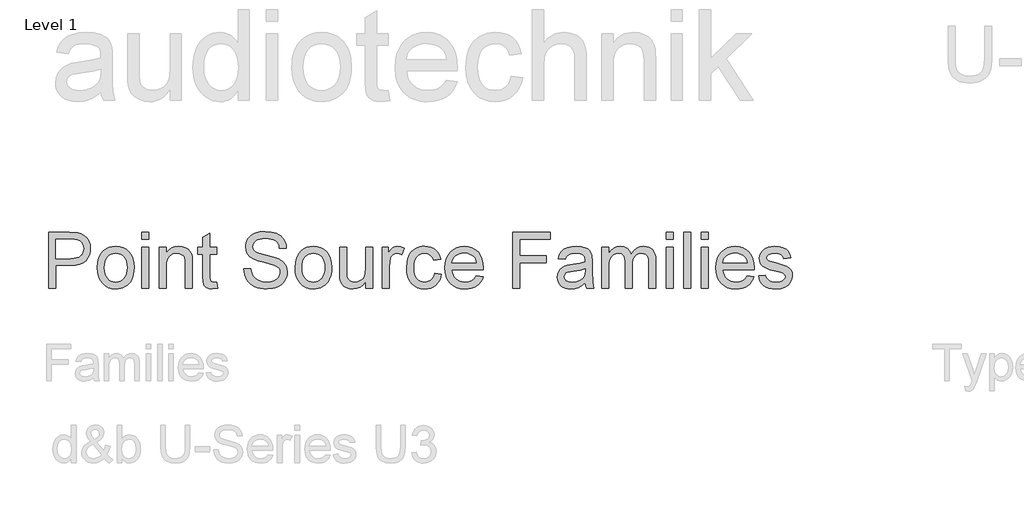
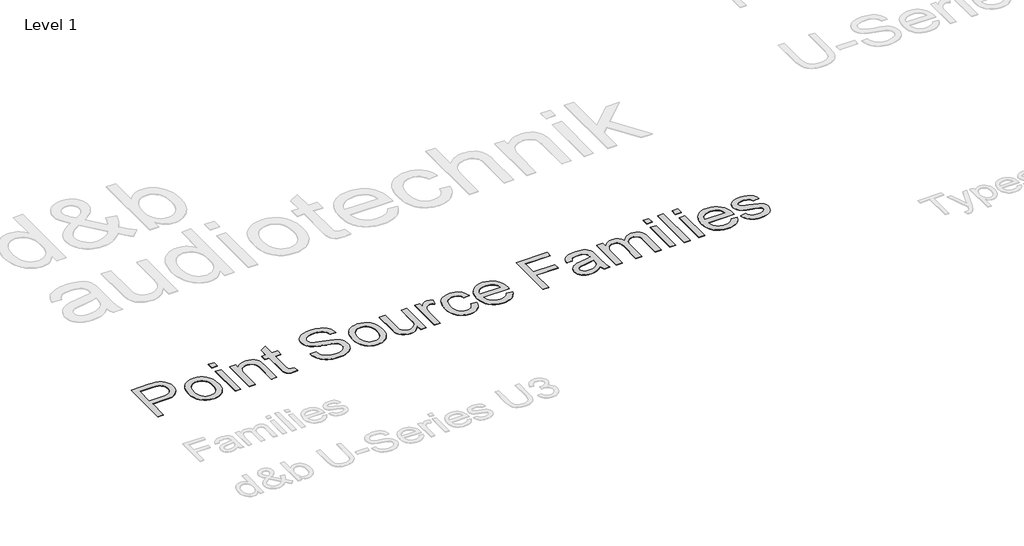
# One storey, part 26 of 29: 1 proxy.
"""IFC4 building model written with IfcOpenShell, lengths in millimetres."""

from ifc_helpers import new_model, si_unit, origin, origin_with_axes, place, context, project, spatial, polyline, outline, extrude, element, save

model = new_model("IFC4")

# Units and contexts
model_context = context("Model", 3, world=origin())
ifc_project = project(units=[si_unit("LENGTHUNIT", "METRE", prefix="MILLI")], contexts=[model_context])

# Site, building, storey
site = spatial("IfcSite", under=ifc_project)
building = spatial("IfcBuilding", under=site)
storey = spatial("IfcBuildingStorey", under=building, Name="Level 1", Elevation=0.0)

# Proxy
placement = place(None, origin())
element("IfcBuildingElementProxy", 1, Name="600mm Arial", ObjectType="600mm Arial", at=placement, inside=storey, context=model_context, shape_type="SweptSolid", body=[
    extrude(outline(polyline([(-21033.6449223, 18351.3054836), (-21033.6449223, 18954.0433445), (-20810.2669749, 18954.0433445), (-20758.2484608, 18952.6086047), (-20720.2094625, 18948.3043853), (-20680.0551427, 18937.5806252), (-20647.0009454, 18920.1246245), (-20620.3846831, 18895.145437), (-20599.544168, 18861.8521165), (-20586.079687, 18822.5807135), (-20581.5915267, 18779.6672788), (-20584.6219546, 18742.6675471), (-20593.7132384, 18708.6292655), (-20608.8653781, 18677.5524339), (-20630.0783736, 18649.4370525), (-20659.2008321, 18626.1317281), (-20698.0813604, 18609.4850678), (-20746.7199587, 18599.4970716), (-20805.1166269, 18596.1677396), (-20958.3026897, 18596.1677396), (-20958.3026897, 18351.3054836), (-21033.6449223, 18351.3054836)]), holes=[polyline([(-20958.3026897, 18671.5099722), (-20800.702043, 18671.5099722), (-20764.4656665, 18673.2390176), (-20733.8946727, 18678.4261537), (-20708.9890616, 18687.0713806), (-20689.7488333, 18699.1746982), (-20675.3922384, 18714.4142099), (-20665.1375278, 18732.4680188), (-20658.9847014, 18753.336125), (-20656.9337593, 18777.0185284), (-20661.7714075, 18810.8636719), (-20676.2843522, 18839.4113148), (-20698.6699716, 18860.8956233), (-20727.125644, 18873.5507639), (-20756.1883216, 18877.4135249), (-20802.4678766, 18878.7011119), (-20958.3026897, 18878.7011119), (-20958.3026897, 18671.5099722)])]), origin_with_axes(), (0.0, 0.0, 1.0), 5.0),
    extrude(outline(polyline([(-20506.2492941, 18572.6232919), (-20502.175001, 18629.9485038), (-20489.9521217, 18679.3458587), (-20469.5806562, 18720.8153566), (-20441.0606045, 18754.3569975), (-20412.3474148, 18775.7953208), (-20380.6543809, 18791.1084088), (-20345.9815029, 18800.2962616), (-20308.3287807, 18803.3588792), (-20266.7627137, 18799.6294755), (-20229.1789694, 18788.4412643), (-20195.5775477, 18769.7942457), (-20165.9584485, 18743.6884196), (-20141.7840029, 18711.0067029), (-20124.5165418, 18672.6320123), (-20114.1560651, 18628.5643478), (-20110.7025728, 18578.8037094), (-20112.2292831, 18538.4746457), (-20116.809414, 18502.6889246), (-20124.4429654, 18471.4465461), (-20135.1299373, 18444.7475103), (-20148.7369726, 18421.6859078), (-20165.130714, 18401.355829), (-20184.3111616, 18383.7572741), (-20206.2783152, 18368.8902429), (-20230.1768493, 18357.0766324), (-20255.1514383, 18348.6383391), (-20281.202082, 18343.5753631), (-20308.3287807, 18341.8877045), (-20350.5018529, 18345.6033126), (-20388.4350851, 18356.7501371), (-20422.1284773, 18375.3281779), (-20451.5820296, 18401.3374349), (-20475.4989578, 18434.3364499), (-20492.5824779, 18473.8837644), (-20502.83259, 18519.9793784), (-20506.2492941, 18572.6232919)]), holes=[polyline([(-20430.9070614, 18572.7704447), (-20428.7273606, 18536.225967), (-20422.1882582, 18504.5835169), (-20411.2897541, 18477.8430943), (-20396.0318483, 18456.0046994), (-20377.4722016, 18439.0407409), (-20356.6684748, 18426.9236277), (-20333.6206678, 18419.6533598), (-20308.3287807, 18417.2299371), (-20283.1656522, 18419.6671553), (-20260.2098157, 18426.97881), (-20239.4612712, 18439.1649011), (-20220.9200186, 18456.2254286), (-20205.6621129, 18478.2799542), (-20194.7636087, 18505.4480396), (-20188.2245063, 18537.7296846), (-20186.0448055, 18575.1248894), (-20188.2383019, 18610.5105388), (-20194.818791, 18641.3252545), (-20205.786273, 18667.5690363), (-20221.1407478, 18689.2418843), (-20239.7509782, 18706.2058428), (-20260.4857272, 18718.3229561), (-20283.3449947, 18725.593224), (-20308.3287807, 18728.0166466), (-20333.6206678, 18725.602421), (-20356.6684748, 18718.3597443), (-20377.4722016, 18706.2886163), (-20396.0318483, 18689.3890371), (-20411.2897541, 18667.6150216), (-20422.1882582, 18640.9205843), (-20428.7273606, 18609.3057253), (-20430.9070614, 18572.7704447)])]), origin_with_axes(), (0.0, 0.0, 1.0), 5.0),
    extrude(outline(polyline([(-20025.9425612, 18351.3054836), (-20025.9425612, 18793.9411002), (-19950.6003285, 18793.9411002), (-19950.6003285, 18351.3054836), (-20025.9425612, 18351.3054836)])), origin_with_axes(), (0.0, 0.0, 1.0), 5.0),
    extrude(outline(polyline([(-20025.9425612, 18878.7011119), (-20025.9425612, 18954.0433445), (-19950.6003285, 18954.0433445), (-19950.6003285, 18878.7011119), (-20025.9425612, 18878.7011119)])), origin_with_axes(), (0.0, 0.0, 1.0), 5.0),
    extrude(outline(polyline([(-19837.5869796, 18351.3054836), (-19837.5869796, 18793.9411002), (-19762.244747, 18793.9411002), (-19762.244747, 18732.136925), (-19736.0699431, 18763.29653), (-19704.6344266, 18785.5533907), (-19667.9381976, 18798.9075071), (-19625.981256, 18803.3588792), (-19588.8435686, 18799.7720298), (-19554.8328781, 18789.0114814), (-19526.4691763, 18772.4200035), (-19506.2724548, 18751.3403651), (-19492.5688505, 18725.8277488), (-19483.6845003, 18695.9373367), (-19479.7113747, 18623.0967016), (-19479.7113747, 18351.3054836), (-19555.0536073, 18351.3054836), (-19555.0536073, 18612.9431585), (-19557.2241111, 18651.9018618), (-19563.7356224, 18679.6033761), (-19575.7469696, 18699.4506097), (-19594.4169808, 18714.8464712), (-19618.3477046, 18724.7241028), (-19646.1411893, 18728.0166466), (-19669.0188509, 18726.1680396), (-19690.2686347, 18720.6222185), (-19709.8905406, 18711.3791834), (-19727.8845687, 18698.4389342), (-19742.9171467, 18680.329943), (-19753.6547024, 18655.5806818), (-19760.0972359, 18624.1911505), (-19762.244747, 18586.1613493), (-19762.244747, 18351.3054836), (-19837.5869796, 18351.3054836)])), origin_with_axes(), (0.0, 0.0, 1.0), 5.0),
    extrude(outline(polyline([(-19216.0135606, 18414.1397283), (-19206.5957815, 18349.0981916), (-19262.9553032, 18341.8877045), (-19299.1181033, 18345.0147015), (-19326.0838535, 18354.3956923), (-19345.1401409, 18368.8534547), (-19357.5745523, 18387.2107663), (-19364.4171574, 18418.7382533), (-19366.6980258, 18472.706542), (-19366.6980258, 18718.5988676), (-19423.2047003, 18718.5988676), (-19423.2047003, 18793.9411002), (-19366.6980258, 18793.9411002), (-19366.6980258, 18901.5097956), (-19291.3557932, 18945.8027878), (-19291.3557932, 18793.9411002), (-19216.0135606, 18793.9411002), (-19216.0135606, 18718.5988676), (-19291.3557932, 18718.5988676), (-19291.3557932, 18474.913834), (-19287.3826676, 18436.0654953), (-19274.5067978, 18422.3067086), (-19263.6358849, 18418.49913), (-19248.8286345, 18417.2299371), (-19216.0135606, 18414.1397283)])), origin_with_axes(), (0.0, 0.0, 1.0), 5.0),
    extrude(outline(polyline([(-18924.0624092, 18558.4966233), (-18848.7201766, 18558.4966233), (-18840.0749497, 18516.6868345), (-18824.4399649, 18483.0808142), (-18800.0493886, 18456.4093696), (-18765.1373873, 18435.4033077), (-18722.4630758, 18421.7732797), (-18674.7855693, 18417.2299371), (-18632.8102336, 18420.6696338), (-18596.0588223, 18430.9887237), (-18566.2787748, 18447.3226843), (-18545.2175306, 18468.8069928), (-18532.6911486, 18493.4734806), (-18528.515688, 18519.353979), (-18531.6426849, 18544.5722897), (-18541.0236758, 18566.369298), (-18560.0799632, 18584.9657328), (-18592.2328496, 18600.5823235), (-18701.9352605, 18629.3506955), (-18773.9481611, 18648.3885888), (-18820.025381, 18666.506777), (-18857.5309504, 18691.8538465), (-18884.1104245, 18722.5719931), (-18899.9477444, 18757.9990292), (-18905.2268511, 18797.4727673), (-18903.5943747, 18819.9089705), (-18898.6969456, 18841.6002126), (-18890.5345639, 18862.5464937), (-18879.1072294, 18882.7478138), (-18864.5437009, 18901.3810369), (-18846.9727371, 18917.6230269), (-18826.394338, 18931.4737841), (-18802.8085036, 18942.9333082), (-18749.7967081, 18958.3291697), (-18691.1195299, 18963.4611235), (-18627.5495211, 18958.0900464), (-18571.9257634, 18941.976815), (-18547.5903694, 18929.9746649), (-18526.2348196, 18915.4525232), (-18507.859114, 18898.4103897), (-18492.4632525, 18878.8482647), (-18480.1667968, 18857.336365), (-18471.0893085, 18834.4449078), (-18465.2307878, 18810.1738932), (-18462.5912345, 18784.5233211), (-18537.9334671, 18784.5233211), (-18542.9734504, 18808.5644095), (-18551.7658301, 18829.4785009), (-18564.3106061, 18847.2655954), (-18580.6077785, 18861.9256929), (-18600.9608499, 18873.385217), (-18625.6733229, 18881.5705914), (-18654.7451976, 18886.4818161), (-18688.1764739, 18888.1188909), (-18722.674608, 18886.5002102), (-18752.1511529, 18881.6441678), (-18776.6061085, 18873.5507639), (-18796.0394749, 18862.2199985), (-18810.8467252, 18848.5991676), (-18821.4233325, 18833.6355674), (-18827.769297, 18817.329198), (-18829.8846184, 18799.6800593), (-18828.3854993, 18784.4957299), (-18823.8881419, 18770.7277463), (-18816.3925463, 18758.3761083), (-18805.8987124, 18747.440816), (-18789.3808108, 18737.0849378), (-18763.3715537, 18726.6186951), (-18682.8789732, 18705.3551157), (-18599.8112187, 18685.1583942), (-18549.5585381, 18667.5368466), (-18506.6083152, 18640.2032144), (-18490.0030416, 18624.1359682), (-18476.6443267, 18606.4684354), (-18466.3758205, 18587.2925864), (-18459.0411732, 18566.7003917), (-18453.1734554, 18521.2669653), (-18454.861114, 18497.699525), (-18459.92409, 18474.8218635), (-18468.3623833, 18452.6339806), (-18480.1759938, 18431.1358765), (-18495.1579881, 18411.1598842), (-18513.1014324, 18393.5383366), (-18534.0063268, 18378.2712338), (-18557.8726712, 18365.3585758), (-18584.0060884, 18355.0900696), (-18611.7122012, 18347.7554223), (-18671.8425133, 18341.8877045), (-18710.3827508, 18343.4695971), (-18745.6580356, 18348.2152748), (-18777.6683677, 18356.1247377), (-18806.4137471, 18367.1979858), (-18832.0689178, 18381.4534131), (-18854.8086236, 18398.9094137), (-18874.6328646, 18419.5659878), (-18891.5416408, 18443.4231352), (-18905.1624717, 18469.7083037), (-18915.1228767, 18497.6489413), (-18921.4228559, 18527.2450478), (-18924.0624092, 18558.4966233)])), origin_with_axes(), (0.0, 0.0, 1.0), 5.0),
    extrude(outline(polyline([(-18368.4134437, 18572.6232919), (-18364.3391506, 18629.9485038), (-18352.1162713, 18679.3458587), (-18331.7448058, 18720.8153566), (-18303.2247541, 18754.3569975), (-18274.5115644, 18775.7953208), (-18242.8185305, 18791.1084088), (-18208.1456525, 18800.2962616), (-18170.4929303, 18803.3588792), (-18128.9268634, 18799.6294755), (-18091.343119, 18788.4412643), (-18057.7416973, 18769.7942457), (-18028.1225982, 18743.6884196), (-18003.9481525, 18711.0067029), (-17986.6806914, 18672.6320123), (-17976.3202147, 18628.5643478), (-17972.8667225, 18578.8037094), (-17974.3934328, 18538.4746457), (-17978.9735636, 18502.6889246), (-17986.607115, 18471.4465461), (-17997.294087, 18444.7475103), (-18010.9011223, 18421.6859078), (-18027.2948637, 18401.355829), (-18046.4753112, 18383.7572741), (-18068.4424648, 18368.8902429), (-18092.3409989, 18357.0766324), (-18117.3155879, 18348.6383391), (-18143.3662317, 18343.5753631), (-18170.4929303, 18341.8877045), (-18212.6660025, 18345.6033126), (-18250.5992347, 18356.7501371), (-18284.292627, 18375.3281779), (-18313.7461792, 18401.3374349), (-18337.6631074, 18434.3364499), (-18354.7466276, 18473.8837644), (-18364.9967397, 18519.9793784), (-18368.4134437, 18572.6232919)]), holes=[polyline([(-18293.0712111, 18572.7704447), (-18290.8915103, 18536.225967), (-18284.3524078, 18504.5835169), (-18273.4539037, 18477.8430943), (-18258.1959979, 18456.0046994), (-18239.6363513, 18439.0407409), (-18218.8326244, 18426.9236277), (-18195.7848175, 18419.6533598), (-18170.4929303, 18417.2299371), (-18145.3298018, 18419.6671553), (-18122.3739653, 18426.97881), (-18101.6254208, 18439.1649011), (-18083.0841682, 18456.2254286), (-18067.8262625, 18478.2799542), (-18056.9277584, 18505.4480396), (-18050.3886559, 18537.7296846), (-18048.2089551, 18575.1248894), (-18050.4024515, 18610.5105388), (-18056.9829407, 18641.3252545), (-18067.9504227, 18667.5690363), (-18083.3048974, 18689.2418843), (-18101.9151279, 18706.2058428), (-18122.6498768, 18718.3229561), (-18145.5091443, 18725.593224), (-18170.4929303, 18728.0166466), (-18195.7848175, 18725.602421), (-18218.8326244, 18718.3597443), (-18239.6363513, 18706.2886163), (-18258.1959979, 18689.3890371), (-18273.4539037, 18667.6150216), (-18284.3524078, 18640.9205843), (-18290.8915103, 18609.3057253), (-18293.0712111, 18572.7704447)])]), origin_with_axes(), (0.0, 0.0, 1.0), 5.0),
    extrude(outline(polyline([(-17605.5733385, 18351.3054836), (-17605.5733385, 18427.3834802), (-17632.8333943, 18389.9790783), (-17664.5816105, 18363.2616484), (-17700.817987, 18347.2311905), (-17741.5425239, 18341.8877045), (-17778.2387529, 18345.6401008), (-17812.3965962, 18356.8972899), (-17841.0546036, 18373.8198617), (-17861.2513251, 18394.5684062), (-17874.8445649, 18419.7683229), (-17883.6921268, 18450.0450111), (-17888.1067108, 18520.089743), (-17888.1067108, 18793.9411002), (-17812.7644782, 18793.9411002), (-17812.7644782, 18555.5535673), (-17811.624044, 18507.8760607), (-17808.2027414, 18478.7398067), (-17797.2214639, 18453.1168257), (-17778.4042998, 18433.6374741), (-17753.0020481, 18421.3318214), (-17722.2655074, 18417.2299371), (-17689.7631331, 18421.4237919), (-17659.3576862, 18434.0053561), (-17634.2865282, 18453.8158015), (-17617.7870207, 18479.6962999), (-17608.6267591, 18515.1417301), (-17605.5733385, 18563.6469712), (-17605.5733385, 18793.9411002), (-17530.2311059, 18793.9411002), (-17530.2311059, 18351.3054836), (-17605.5733385, 18351.3054836)])), origin_with_axes(), (0.0, 0.0, 1.0), 5.0),
    extrude(outline(polyline([(-17426.635536, 18351.3054836), (-17426.635536, 18793.9411002), (-17360.7110825, 18793.9411002), (-17360.7110825, 18728.458105), (-17336.3572944, 18766.4235269), (-17313.9164927, 18788.7907522), (-17291.4021146, 18799.7168475), (-17266.8275973, 18803.3588792), (-17229.3036338, 18797.5463437), (-17191.1910591, 18780.1087372), (-17216.3541876, 18712.5656028), (-17242.8416912, 18724.1538857), (-17269.3291949, 18728.0166466), (-17291.8251789, 18724.3010385), (-17311.9299299, 18713.154214), (-17328.17192, 18695.4223019), (-17339.0796212, 18671.9514306), (-17348.2398829, 18629.8657303), (-17351.2933034, 18583.9540573), (-17351.2933034, 18351.3054836), (-17426.635536, 18351.3054836)])), origin_with_axes(), (0.0, 0.0, 1.0), 5.0),
    extrude(outline(polyline([(-16861.5687914, 18511.4077279), (-16786.2265588, 18501.9899488), (-16794.4211303, 18466.4387525), (-16807.2326208, 18434.9802434), (-16824.6610303, 18407.6144215), (-16846.7063588, 18384.3412867), (-16872.4397044, 18365.7678445), (-16900.9321649, 18352.5011001), (-16932.1837404, 18344.5410534), (-16966.1944309, 18341.8877045), (-17008.4502765, 18345.5895171), (-17046.3375235, 18356.6949548), (-17079.8561718, 18375.2040177), (-17109.0062214, 18401.1167057), (-17132.6012529, 18433.9455753), (-17149.4548468, 18473.2031827), (-17159.5670031, 18518.889528), (-17162.9377219, 18571.0046111), (-17157.1803687, 18638.0511047), (-17149.9836771, 18668.2220268), (-17139.908309, 18696.1580659), (-17126.8852864, 18721.2982017), (-17110.8456314, 18743.0814143), (-17091.789344, 18761.5077038), (-17069.7164243, 18776.57707), (-17045.6247522, 18788.2941115), (-17020.5122075, 18796.6634269), (-16994.3787902, 18801.6850162), (-16967.2245005, 18803.3588792), (-16933.7978227, 18801.0596168), (-16903.5625212, 18794.1618294), (-16876.518596, 18782.665517), (-16852.6660472, 18766.5706797), (-16832.4095448, 18746.2451995), (-16816.1537591, 18722.0569583), (-16803.8986902, 18694.0059562), (-16795.6443379, 18662.0921931), (-16870.9865705, 18652.674414), (-16884.6533866, 18685.5446703), (-16905.9353601, 18709.1075121), (-16933.6552684, 18723.289363), (-16966.6358893, 18728.0166466), (-16992.2358776, 18725.689793), (-17015.3250713, 18718.7092322), (-17035.9034704, 18707.0749641), (-17053.9710749, 18690.7869887), (-17068.6817562, 18669.4682271), (-17079.1893857, 18642.7416002), (-17085.4939634, 18610.6071079), (-17087.5954893, 18573.0647503), (-17085.5399486, 18534.9567741), (-17079.3733267, 18502.4498013), (-17069.0956234, 18475.5438319), (-17054.7068389, 18454.2388658), (-17036.9979194, 18438.0474595), (-17016.7598111, 18426.4821693), (-16993.9925141, 18419.5429952), (-16968.6960284, 18417.2299371), (-16929.6821429, 18423.0056844), (-16912.8101548, 18430.2253686), (-16897.6948034, 18440.3329264), (-16884.7591527, 18453.4387225), (-16874.4262672, 18469.6531214), (-16866.6961468, 18488.9761232), (-16861.5687914, 18511.4077279)])), origin_with_axes(), (0.0, 0.0, 1.0), 5.0),
    extrude(outline(polyline([(-16410.3983126, 18483.1543906), (-16336.5276079, 18473.7366116), (-16347.8537749, 18444.1497021), (-16363.1438703, 18418.0760657), (-16382.3978942, 18395.5157023), (-16405.6158466, 18376.468612), (-16432.5586042, 18361.339465), (-16462.9870438, 18350.5329314), (-16496.9011652, 18344.0490112), (-16534.3009685, 18341.8877045), (-16581.0495731, 18345.6171082), (-16622.703012, 18356.8053194), (-16659.2612852, 18375.452338), (-16690.7243929, 18401.5581641), (-16716.0254771, 18434.3962307), (-16734.0976801, 18473.2399709), (-16744.9410019, 18518.0893846), (-16748.5554425, 18568.9444719), (-16744.9042137, 18621.5240061), (-16733.9505273, 18667.8679404), (-16715.6943833, 18707.9762749), (-16690.1357817, 18741.8490097), (-16658.7554475, 18768.7595776), (-16623.0341058, 18787.9814118), (-16582.9717565, 18799.5145124), (-16538.5683997, 18803.3588792), (-16495.5951841, 18799.5237094), (-16456.7330499, 18788.0182), (-16421.9819969, 18768.842351), (-16391.3420252, 18741.9961625), (-16366.3306481, 18708.1970041), (-16348.4653787, 18668.162246), (-16337.746217, 18621.8918881), (-16334.1731632, 18569.3859303), (-16334.6146216, 18549.0788442), (-16673.2132099, 18549.0788442), (-16668.8492097, 18519.0136881), (-16660.1717932, 18492.6825343), (-16647.1809602, 18470.0853828), (-16629.8767109, 18451.2222335), (-16609.2155383, 18436.3506038), (-16586.1539358, 18425.7280112), (-16560.6919032, 18419.3544556), (-16532.8294406, 18417.2299371), (-16492.7303031, 18421.1662745), (-16458.9587359, 18432.9752865), (-16431.5147391, 18453.3927372), (-16410.3983126, 18483.1543906)]), holes=[polyline([(-16673.2132099, 18624.4210768), (-16409.5153958, 18624.4210768), (-16419.705727, 18664.2259087), (-16428.4705156, 18679.8792876), (-16439.6817194, 18692.6999751), (-16460.2279288, 18708.1510189), (-16483.6068296, 18719.1874787), (-16509.8184218, 18725.8093547), (-16538.8627053, 18728.0166466), (-16565.3548075, 18726.2554116), (-16589.6488147, 18720.9717064), (-16611.744727, 18712.1655312), (-16631.6425445, 18699.8368858), (-16648.3397885, 18684.5559874), (-16660.8339808, 18666.8930531), (-16669.1251212, 18646.8480829), (-16673.2132099, 18624.4210768)])]), origin_with_axes(), (0.0, 0.0, 1.0), 5.0),
    extrude(outline(polyline([(-16013.9686746, 18351.3054836), (-16013.9686746, 18954.0433445), (-15609.0041743, 18954.0433445), (-15609.0041743, 18878.7011119), (-15938.6264419, 18878.7011119), (-15938.6264419, 18699.7633094), (-15656.0930696, 18699.7633094), (-15656.0930696, 18624.4210768), (-15938.6264419, 18624.4210768), (-15938.6264419, 18351.3054836), (-16013.9686746, 18351.3054836)])), origin_with_axes(), (0.0, 0.0, 1.0), 5.0),
    extrude(outline(polyline([(-15232.2930112, 18407.812158), (-15268.2902644, 18376.9468586), (-15305.3543754, 18356.7501371), (-15344.3314728, 18345.6033126), (-15386.0676852, 18341.8877045), (-15419.6139246, 18344.1225876), (-15449.0306887, 18350.827237), (-15474.3179773, 18362.0016526), (-15495.4757906, 18377.6458344), (-15512.1822317, 18396.7665011), (-15524.1154039, 18418.3703713), (-15531.2753072, 18442.4574449), (-15533.6619417, 18469.027722), (-15530.0566981, 18500.2609034), (-15519.2409674, 18528.6246052), (-15502.557519, 18552.9048169), (-15481.3491219, 18571.8875279), (-15456.4251168, 18586.2349257), (-15428.5948438, 18596.609198), (-15363.4061543, 18607.9399634), (-15286.3716645, 18619.8593401), (-15232.7344696, 18633.8388559), (-15232.2930112, 18650.6142748), (-15237.4801473, 18684.2386892), (-15243.9640675, 18696.6914947), (-15253.0415557, 18706.2380325), (-15268.7317228, 18715.7661762), (-15287.8431925, 18722.5719931), (-15336.3300394, 18728.0166466), (-15381.2116429, 18724.393009), (-15412.5551888, 18713.522096), (-15433.9291328, 18693.417345), (-15448.90193, 18662.0921931), (-15524.2441626, 18671.5099722), (-15511.1659576, 18712.7127556), (-15491.6498178, 18745.0863712), (-15463.8747272, 18769.8448295), (-15426.0196699, 18788.202141), (-15379.7217208, 18799.5696947), (-15326.6179548, 18803.3588792), (-15275.6846925, 18800.0111531), (-15235.3096436, 18789.9679746), (-15204.8674085, 18774.8664187), (-15183.7325878, 18756.3435603), (-15169.7162838, 18733.4429061), (-15160.6295985, 18705.2079629), (-15156.9507786, 18639.2835094), (-15156.9507786, 18545.547177), (-15153.1248058, 18414.6547631), (-15147.4594231, 18382.2995417), (-15138.1152204, 18351.3054836), (-15213.4574531, 18351.3054836), (-15225.5239825, 18377.4986816), (-15232.2930112, 18407.812158)]), holes=[polyline([(-15232.2930112, 18558.4966233), (-15282.9135737, 18545.9518472), (-15353.8412224, 18535.393634), (-15418.66203, 18523.1799517), (-15435.5294194, 18514.8290304), (-15448.0190132, 18503.314324), (-15455.7445351, 18489.5187492), (-15458.319709, 18474.3252228), (-15452.7095086, 18451.9212093), (-15435.8789073, 18433.5638977), (-15408.1957872, 18421.3134273), (-15370.0280302, 18417.2299371), (-15329.5610107, 18421.7364915), (-15293.8028808, 18435.2561549), (-15264.8137796, 18455.1769649), (-15244.6538462, 18478.8869595), (-15235.7143138, 18503.314324), (-15232.7344696, 18537.1594675), (-15232.2930112, 18558.4966233)])]), origin_with_axes(), (0.0, 0.0, 1.0), 5.0),
    extrude(outline(polyline([(-15053.3552088, 18351.3054836), (-15053.3552088, 18793.9411002), (-14978.0129761, 18793.9411002), (-14978.0129761, 18721.1004651), (-14955.3514452, 18754.5593326), (-14926.2151912, 18780.7709247), (-14891.5974955, 18797.7118906), (-14852.4916394, 18803.3588792), (-14810.5898801, 18797.601526), (-14792.7568004, 18790.4048345), (-14777.002254, 18780.3294663), (-14751.9127019, 18752.6831344), (-14735.5051649, 18715.8029644), (-14708.042774, 18754.1086771), (-14676.7176221, 18781.4699005), (-14641.5297093, 18797.8866346), (-14602.4790355, 18803.3588792), (-14572.3173104, 18801.0826094), (-14545.8436023, 18794.2537999), (-14523.0579112, 18782.8724506), (-14503.9602372, 18766.9385617), (-14488.8632798, 18746.2681921), (-14478.0797388, 18720.6774008), (-14471.6096142, 18690.1661879), (-14469.452906, 18654.7345532), (-14469.452906, 18351.3054836), (-14544.7951386, 18351.3054836), (-14544.7951386, 18622.3609376), (-14546.5425781, 18659.9400834), (-14551.7848965, 18685.2687588), (-14561.6073458, 18702.6143949), (-14577.0951778, 18716.2444228), (-14597.0159878, 18725.0735907), (-14620.1373712, 18728.0166466), (-14641.4883225, 18726.1312514), (-14660.9538786, 18720.4750657), (-14678.5340394, 18711.0480896), (-14694.2288051, 18697.850323), (-14707.1368646, 18680.4954899), (-14716.3569071, 18658.5973141), (-14721.8889326, 18632.1557957), (-14723.7329411, 18601.1709347), (-14723.7329411, 18351.3054836), (-14799.0751737, 18351.3054836), (-14799.0751737, 18630.7486471), (-14803.4345753, 18673.3493822), (-14808.8838274, 18690.0696188), (-14816.5127803, 18703.736435), (-14826.6249366, 18714.3590276), (-14839.5237991, 18721.9465937), (-14855.2093676, 18726.4991334), (-14873.6816423, 18728.0166466), (-14902.7075317, 18723.9699447), (-14929.4525528, 18711.8298388), (-14951.5254725, 18691.8906347), (-14966.5350579, 18664.4466379), (-14975.1434966, 18626.3708514), (-14978.0129761, 18574.5362782), (-14978.0129761, 18351.3054836), (-15053.3552088, 18351.3054836)])), origin_with_axes(), (0.0, 0.0, 1.0), 5.0),
    extrude(outline(polyline([(-14356.4395571, 18351.3054836), (-14356.4395571, 18793.9411002), (-14281.0973245, 18793.9411002), (-14281.0973245, 18351.3054836), (-14356.4395571, 18351.3054836)])), origin_with_axes(), (0.0, 0.0, 1.0), 5.0),
    extrude(outline(polyline([(-14356.4395571, 18878.7011119), (-14356.4395571, 18954.0433445), (-14281.0973245, 18954.0433445), (-14281.0973245, 18878.7011119), (-14356.4395571, 18878.7011119)])), origin_with_axes(), (0.0, 0.0, 1.0), 5.0),
    extrude(outline(polyline([(-14168.0839756, 18351.3054836), (-14168.0839756, 18954.0433445), (-14092.7417429, 18954.0433445), (-14092.7417429, 18351.3054836), (-14168.0839756, 18351.3054836)])), origin_with_axes(), (0.0, 0.0, 1.0), 5.0),
    extrude(outline(polyline([(-13979.728394, 18878.7011119), (-13979.728394, 18954.0433445), (-13904.3861614, 18954.0433445), (-13904.3861614, 18878.7011119), (-13979.728394, 18878.7011119)])), origin_with_axes(), (0.0, 0.0, 1.0), 5.0),
    extrude(outline(polyline([(-13979.728394, 18351.3054836), (-13979.728394, 18793.9411002), (-13904.3861614, 18793.9411002), (-13904.3861614, 18351.3054836), (-13979.728394, 18351.3054836)])), origin_with_axes(), (0.0, 0.0, 1.0), 5.0),
    extrude(outline(polyline([(-13481.4690198, 18483.1543906), (-13407.5983151, 18473.7366116), (-13418.9244821, 18444.1497021), (-13434.2145775, 18418.0760657), (-13453.4686014, 18395.5157023), (-13476.6865538, 18376.468612), (-13503.6293114, 18361.339465), (-13534.057751, 18350.5329314), (-13567.9718724, 18344.0490112), (-13605.3716757, 18341.8877045), (-13652.1202803, 18345.6171082), (-13693.7737192, 18356.8053194), (-13730.3319924, 18375.452338), (-13761.7951001, 18401.5581641), (-13787.0961843, 18434.3962307), (-13805.1683873, 18473.2399709), (-13816.0117091, 18518.0893846), (-13819.6261497, 18568.9444719), (-13815.9749209, 18621.5240061), (-13805.0212345, 18667.8679404), (-13786.7650905, 18707.9762749), (-13761.2064889, 18741.8490097), (-13729.8261547, 18768.7595776), (-13694.104813, 18787.9814118), (-13654.0424637, 18799.5145124), (-13609.6391069, 18803.3588792), (-13566.6658913, 18799.5237094), (-13527.8037571, 18788.0182), (-13493.0527041, 18768.842351), (-13462.4127324, 18741.9961625), (-13437.4013553, 18708.1970041), (-13419.5360859, 18668.162246), (-13408.8169242, 18621.8918881), (-13405.2438704, 18569.3859303), (-13405.6853288, 18549.0788442), (-13744.2839171, 18549.0788442), (-13739.9199169, 18519.0136881), (-13731.2425004, 18492.6825343), (-13718.2516674, 18470.0853828), (-13700.9474181, 18451.2222335), (-13680.2862455, 18436.3506038), (-13657.224643, 18425.7280112), (-13631.7626104, 18419.3544556), (-13603.9001478, 18417.2299371), (-13563.8010103, 18421.1662745), (-13530.0294431, 18432.9752865), (-13502.5854463, 18453.3927372), (-13481.4690198, 18483.1543906)]), holes=[polyline([(-13744.2839171, 18624.4210768), (-13480.586103, 18624.4210768), (-13490.7764342, 18664.2259087), (-13499.5412228, 18679.8792876), (-13510.7524266, 18692.6999751), (-13531.298636, 18708.1510189), (-13554.6775368, 18719.1874787), (-13580.889129, 18725.8093547), (-13609.9334125, 18728.0166466), (-13636.4255147, 18726.2554116), (-13660.7195219, 18720.9717064), (-13682.8154342, 18712.1655312), (-13702.7132517, 18699.8368858), (-13719.4104957, 18684.5559874), (-13731.904688, 18666.8930531), (-13740.1958284, 18646.8480829), (-13744.2839171, 18624.4210768)])]), origin_with_axes(), (0.0, 0.0, 1.0), 5.0),
    extrude(outline(polyline([(-13358.154975, 18483.1543906), (-13282.8127424, 18492.5721697), (-13278.2602027, 18475.3920805), (-13270.9301539, 18460.3457069), (-13260.8225961, 18447.4330489), (-13247.9375292, 18436.6541065), (-13232.2381651, 18428.1560324), (-13213.6877155, 18422.0859794), (-13168.0335599, 18417.2299371), (-13122.9312273, 18421.6813092), (-13105.4016502, 18427.2455244), (-13091.2197993, 18435.0354257), (-13072.4578175, 18454.3860186), (-13067.7673221, 18465.2201434), (-13066.2038236, 18476.8268203), (-13067.7765191, 18486.9987575), (-13072.4946057, 18496.0302605), (-13091.3669521, 18510.6719639), (-13119.5835011, 18520.2368958), (-13168.9164767, 18532.1562724), (-13237.6736216, 18552.0402942), (-13282.371284, 18569.0180483), (-13311.0844737, 18587.5409068), (-13331.8882005, 18612.0602418), (-13344.5249471, 18641.0125548), (-13348.7371959, 18672.8343474), (-13345.3526815, 18702.0257837), (-13335.1991385, 18728.9731398), (-13319.1962717, 18752.609558), (-13298.2637862, 18771.8681805), (-13277.4600593, 18783.9898922), (-13250.3655504, 18794.1618294), (-13219.0403985, 18801.0596168), (-13185.5447428, 18803.3588792), (-13136.5060729, 18799.6616652), (-13093.8685496, 18788.570023), (-13059.5819477, 18771.1692047), (-13035.5960416, 18748.544462), (-13019.7035394, 18719.0219319), (-13009.6971491, 18680.9277513), (-13085.0393818, 18671.5099722), (-13094.5491313, 18695.2199668), (-13113.3662954, 18713.0806376), (-13141.6748149, 18724.2826444), (-13179.6586309, 18728.0166466), (-13222.9215535, 18724.4481913), (-13251.763502, 18713.7428252), (-13267.987098, 18698.2917814), (-13273.3949633, 18680.4862929), (-13271.1508831, 18668.89801), (-13264.4186426, 18658.5605259), (-13252.9039362, 18649.3266879), (-13236.3124582, 18641.9322598), (-13171.4180742, 18625.8926048), (-13060.8327465, 18590.4287804), (-13031.6229161, 18573.4694205), (-13009.4764199, 18550.2560666), (-12995.5152982, 18520.7151424), (-12990.861591, 18484.7730714), (-12996.3246386, 18447.6169899), (-13012.7137815, 18412.6682004), (-13039.4036203, 18382.6674237), (-13075.7687555, 18360.3553807), (-13119.6938657, 18346.5046235), (-13169.0636295, 18341.8877045), (-13209.6134224, 18344.1133906), (-13245.0312615, 18350.7904488), (-13275.3171467, 18361.9188791), (-13300.4710781, 18377.4986816), (-13321.0172876, 18397.4562799), (-13337.4800068, 18421.7180974), (-13349.859236, 18450.2841344), (-13358.154975, 18483.1543906)])), origin_with_axes(), (0.0, 0.0, 1.0), 5.0),
])

save(model, "model.ifc")
